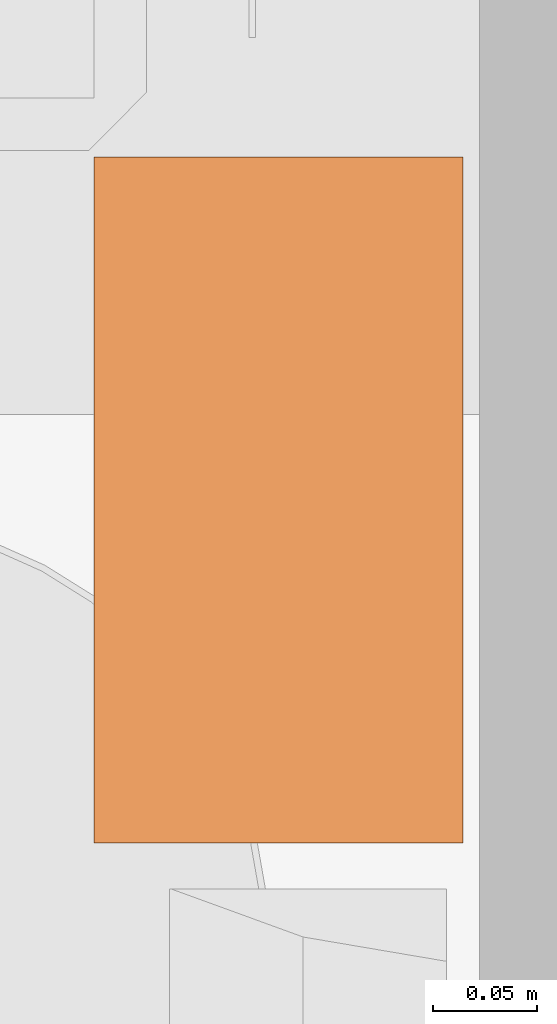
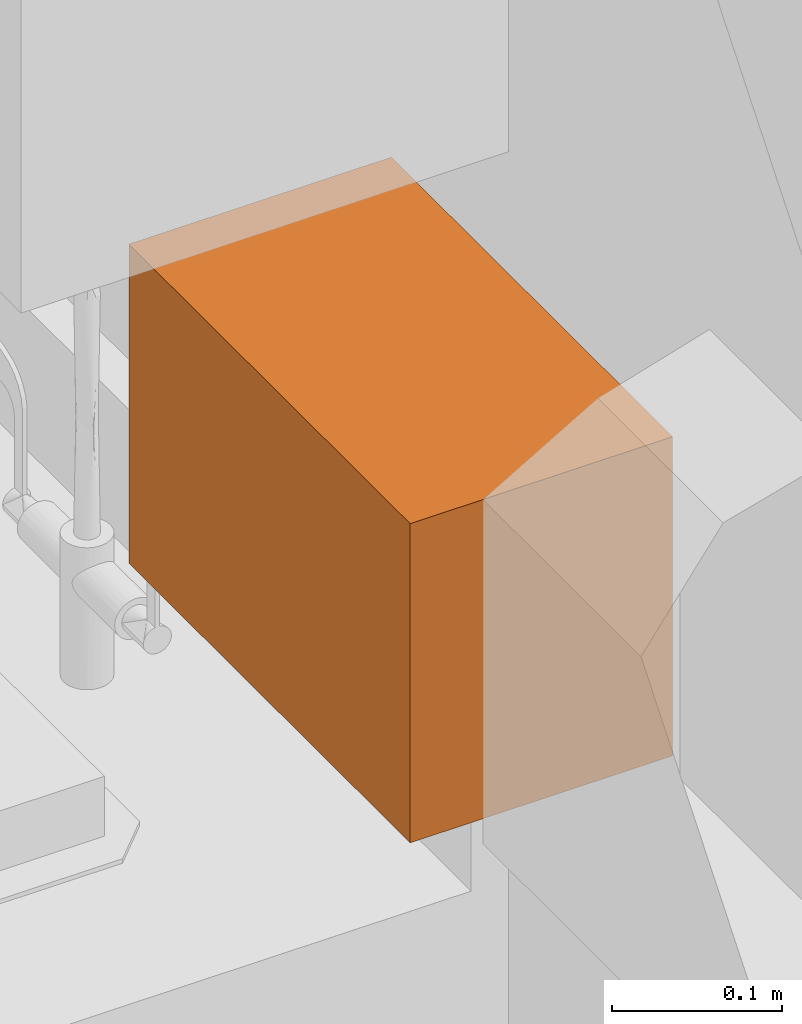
# One storey, part 112 of 142: 1 proxy.
"""IFC2X3 building model written with IfcOpenShell, lengths in feet."""

import ifcopenshell
import ifcopenshell.guid

model = None  # the IFC model being written
_history = None  # IfcOwnerHistory: only IFC2X3 demands one
_inside = {}  # id of a spatial element -> (the spatial element, [elements in it])
_under = {}  # id of a project, library or spatial element -> (it, [spatial elements below it])
_declared = {}  # id of a project -> (the project, [libraries it declares])
_typed = {}  # id of a type object -> (the type object, [elements of that type])
_made_of = {}  # id of a material, layer set ... -> (it, [elements and type objects made of it])


def new_model(schema):
    """Start an empty IFC model of exactly this schema.

    Asked for "IFC4X3", IfcOpenShell would pick the latest addendum, in which some entities
    have other attributes; the version numbers below select the first issue.
    IFC2X3 requires an IfcOwnerHistory on every rooted entity: one is made here for all.
    """
    global model, _history
    if schema == "IFC4X3":
        model = ifcopenshell.file(schema_version=(4, 3, 0, 0))
    else:
        model = ifcopenshell.file(schema=schema)
    _inside.clear()
    _under.clear()
    _declared.clear()
    _typed.clear()
    _made_of.clear()
    _history = None
    if model.schema == "IFC2X3":
        org = make("IfcOrganization", Name="unknown")
        user = make(
            "IfcPersonAndOrganization",
            ThePerson=make("IfcPerson", FamilyName="unknown"),
            TheOrganization=org,
        )
        app = make(
            "IfcApplication",
            ApplicationDeveloper=org,
            Version="unknown",
            ApplicationFullName="unknown",
            ApplicationIdentifier="unknown",
        )
        _history = make(
            "IfcOwnerHistory",
            OwningUser=user,
            OwningApplication=app,
            ChangeAction="ADDED",
            CreationDate=0,
        )
    return model


def make(cls, **values):
    """One entity of the class cls with the attributes given. An attribute that is None is left unset."""
    return model.create_entity(
        cls, **{name: value for name, value in values.items() if value is not None}
    )


def entity(cls, *values):
    """Any entity or typed value of the class cls, its attributes in the order of the schema. None: left unset."""
    e = model.create_entity(cls)
    for i, value in enumerate(values):
        if value is not None:
            e[i] = value
    return e


def rooted(cls, **values):
    """An entity with a GlobalId (a new one), such as an element, a storey or a relation."""
    return make(cls, GlobalId=ifcopenshell.guid.new(), OwnerHistory=_history, **values)


def si_unit(unit_type, name, prefix=None):
    """IfcSIUnit, for example si_unit("LENGTHUNIT", "METRE", prefix="MILLI")."""
    return make("IfcSIUnit", UnitType=unit_type, Prefix=prefix, Name=name)


def converted_unit(unit_type, name, factor, base, dimensions=None, offset=None):
    """IfcConversionBasedUnit, such as the inch: factor (a typed value) times the base unit."""
    return make(
        "IfcConversionBasedUnit"
        if offset is None
        else "IfcConversionBasedUnitWithOffset",
        ConversionOffset=offset,
        Dimensions=None
        if dimensions is None
        else entity("IfcDimensionalExponents", *dimensions),
        UnitType=unit_type,
        Name=name,
        ConversionFactor=make(
            "IfcMeasureWithUnit", ValueComponent=factor, UnitComponent=base
        ),
    )


def derived_unit(unit_type, elements):
    """IfcDerivedUnit: a product of units, each with its exponent."""
    return make(
        "IfcDerivedUnit",
        Elements=[
            make("IfcDerivedUnitElement", Unit=unit, Exponent=power)
            for unit, power in elements
        ],
        UnitType=unit_type,
    )


def assignment(units):
    """IfcUnitAssignment: the units of a project."""
    return None if units is None else make("IfcUnitAssignment", Units=units)


def point(xyz):
    """IfcCartesianPoint."""
    return None if xyz is None else make("IfcCartesianPoint", Coordinates=xyz)


def direction(xyz):
    """IfcDirection."""
    return None if xyz is None else make("IfcDirection", DirectionRatios=xyz)


def frame(location, z_axis=None, x_axis=None):
    """IfcAxis2Placement3D, a coordinate frame: its origin and axes. An axis left out is left unset."""
    return make(
        "IfcAxis2Placement3D",
        Location=point(location),
        Axis=direction(z_axis),
        RefDirection=direction(x_axis),
    )


def frame_2d(location, x_axis=None):
    """IfcAxis2Placement2D, a coordinate frame in the plane: its origin and x axis."""
    return make(
        "IfcAxis2Placement2D", Location=point(location), RefDirection=direction(x_axis)
    )


def origin():
    """The frame at (0, 0, 0) with its axes left unset."""
    return frame((0.0, 0.0, 0.0))


def place(relative_to, where):
    """IfcLocalPlacement: puts the frame where relative to a parent placement (None: the world)."""
    return make(
        "IfcLocalPlacement", PlacementRelTo=relative_to, RelativePlacement=where
    )


def context(
    kind, dimensions, precision=None, world=None, true_north=None, identifier=None
):
    """IfcGeometricRepresentationContext, for example the 3D "Model" context."""
    return make(
        "IfcGeometricRepresentationContext",
        ContextIdentifier=identifier,
        ContextType=kind,
        CoordinateSpaceDimension=dimensions,
        Precision=precision,
        WorldCoordinateSystem=world,
        TrueNorth=true_north,
    )


def subcontext(parent, identifier, kind, view, scale=None):
    """IfcGeometricRepresentationSubContext, for example "Body" below "Model"."""
    return make(
        "IfcGeometricRepresentationSubContext",
        ContextIdentifier=identifier,
        ContextType=kind,
        ParentContext=parent,
        TargetScale=scale,
        TargetView=view,
    )


def project(units=None, contexts=None):
    """IfcProject with its units and contexts."""
    return rooted(
        "IfcProject",
        Name="project",
        RepresentationContexts=contexts,
        UnitsInContext=assignment(units),
    )


def spatial(cls, under=None, at=None, **own):
    """A site, building, storey or space (cls), placed at a placement, below another one or the project."""
    s = rooted(cls, ObjectPlacement=at, **own)
    if under is not None:
        _under.setdefault(under.id(), (under, []))[1].append(s)
    return s


def profile(cls, at=None, kind="AREA", **sizes):
    """A parametric profile (cls). Its sizes go by their IFC names, for example OverallWidth=200.0."""
    return make(cls, ProfileType=kind, Position=at, **sizes)


def rectangle(**sizes):
    """IfcRectangleProfileDef."""
    return profile("IfcRectangleProfileDef", **sizes)


def extrude(swept, where, along, depth):
    """IfcExtrudedAreaSolid: the profile swept, set in the frame where, extruded along a direction by depth."""
    return make(
        "IfcExtrudedAreaSolid",
        SweptArea=swept,
        Position=where,
        ExtrudedDirection=direction(along),
        Depth=depth,
    )


def shape(context_of_items, identifier, shape_type, items):
    """IfcShapeRepresentation: the items that make up one representation, for example the "Body"."""
    return make(
        "IfcShapeRepresentation",
        ContextOfItems=context_of_items,
        RepresentationIdentifier=identifier,
        RepresentationType=shape_type,
        Items=items,
    )


def source(mapping_origin, context_of_items, identifier, shape_type, items):
    """IfcRepresentationMap: a shape defined once, which mapped items show again and again."""
    return make(
        "IfcRepresentationMap",
        MappingOrigin=mapping_origin,
        MappedRepresentation=shape(context_of_items, identifier, shape_type, items),
    )


def transform(
    local_origin,
    x_axis=None,
    y_axis=None,
    z_axis=None,
    scale=None,
    scale2=None,
    scale3=None,
    uniform=True,
):
    """IfcCartesianTransformationOperator3D, or its non-uniform kind. x_axis, y_axis, z_axis: its Axis1, 2, 3."""
    if uniform:
        return make(
            "IfcCartesianTransformationOperator3D",
            Axis1=direction(x_axis),
            Axis2=direction(y_axis),
            LocalOrigin=point(local_origin),
            Scale=scale,
            Axis3=direction(z_axis),
        )
    return make(
        "IfcCartesianTransformationOperator3DnonUniform",
        Axis1=direction(x_axis),
        Axis2=direction(y_axis),
        LocalOrigin=point(local_origin),
        Scale=scale,
        Axis3=direction(z_axis),
        Scale2=scale2,
        Scale3=scale3,
    )


def mapped(mapping_source, mapping_target):
    """IfcMappedItem: shows the shape of a source again, moved by a transform."""
    return make(
        "IfcMappedItem", MappingSource=mapping_source, MappingTarget=mapping_target
    )


def made_of(thing, what):
    """Note that an element or type object is made of a material, layer set ...; save() writes the relation."""
    if what is not None:
        _made_of.setdefault(what.id(), (what, []))[1].append(thing)
    return thing


def type_object(cls, material=None, **own):
    """A type object (cls), such as IfcWallType, which elements share."""
    return made_of(rooted(cls, **own), material)


def type_shapes(of_type, sources):
    """Give a type object the sources (RepresentationMaps) that its elements show as mapped items."""
    of_type.RepresentationMaps = sources


def element(
    cls,
    number,
    at=None,
    inside=None,
    cuts=None,
    type_object=None,
    material=None,
    context=None,
    identifier="Body",
    shape_type=None,
    held_by="IfcProductDefinitionShape",
    body=None,
    shapes=None,
    **own,
):
    """One element of the class cls, such as IfcWall. Its Tag is "e" and its number.

    at: its placement. inside: the storey or other place that contains it. cuts: it is an
    opening in that element (IfcRelVoidsElement). A single representation is given by context,
    identifier, shape_type and body (its items); several are given by shapes. held_by: the class
    of the entity that holds the representations. save() writes the other relations.
    """
    e = rooted(cls, Tag="e%d" % number, ObjectPlacement=at, **own)
    if body is not None:
        shapes = [shape(context, identifier, shape_type, body)]
    if shapes is not None:
        e.Representation = make(held_by, Representations=shapes)
    if inside is not None:
        _inside.setdefault(inside.id(), (inside, []))[1].append(e)
    if cuts is not None:
        rooted(
            "IfcRelVoidsElement", RelatingBuildingElement=cuts, RelatedOpeningElement=e
        )
    if type_object is not None:
        _typed.setdefault(type_object.id(), (type_object, []))[1].append(e)
    return made_of(e, material)


def aggregate(whole, parts):
    """IfcRelAggregates: a whole, such as a stair, and the parts it consists of."""
    return rooted("IfcRelAggregates", RelatingObject=whole, RelatedObjects=parts)


def save(model, path):
    """Write the relations noted so far, then the file.

    IfcRelAggregates (storeys below a building ...), IfcRelContainedInSpatialStructure (elements
    in a storey), IfcRelDefinesByType, IfcRelAssociatesMaterial and IfcRelDeclares: one each for
    every whole, place, type object, material and project.
    """
    for whole, parts in _under.values():
        aggregate(whole, parts)
    for where, things in _inside.values():
        rooted(
            "IfcRelContainedInSpatialStructure",
            RelatedElements=things,
            RelatingStructure=where,
        )
    for kind, things in _typed.values():
        rooted("IfcRelDefinesByType", RelatedObjects=things, RelatingType=kind)
    for what, things in _made_of.values():
        rooted("IfcRelAssociatesMaterial", RelatedObjects=things, RelatingMaterial=what)
    for by, libraries in _declared.values():
        rooted("IfcRelDeclares", RelatingContext=by, RelatedDefinitions=libraries)
    model.write(path)


model = new_model("IFC2X3")

# Units and contexts
model_context = context("Model", 3, precision=0.0001, world=origin(), true_north=direction((6.12303176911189e-17, 1.0)))
body_context = subcontext(model_context, "Body", "Model", "MODEL_VIEW")
ifc_project = project(units=[converted_unit("LENGTHUNIT", "FOOT", entity("IfcRatioMeasure", 0.3048), si_unit("LENGTHUNIT", "METRE"), dimensions=[1, 0, 0, 0, 0, 0, 0]), converted_unit("AREAUNIT", "SQUARE FOOT", entity("IfcRatioMeasure", 0.09290304), si_unit("AREAUNIT", "SQUARE_METRE"), dimensions=[2, 0, 0, 0, 0, 0, 0]), converted_unit("VOLUMEUNIT", "CUBIC FOOT", entity("IfcRatioMeasure", 0.028316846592), si_unit("VOLUMEUNIT", "CUBIC_METRE"), dimensions=[3, 0, 0, 0, 0, 0, 0]), converted_unit("PLANEANGLEUNIT", "DEGREE", entity("IfcRatioMeasure", 0.0174532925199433), si_unit("PLANEANGLEUNIT", "RADIAN"), dimensions=[0, 0, 0, 0, 0, 0, 0]), si_unit("MASSUNIT", "GRAM", prefix="KILO"), derived_unit("MASSDENSITYUNIT", [(si_unit("MASSUNIT", "GRAM", prefix="KILO"), 1), (si_unit("LENGTHUNIT", "METRE"), -3)]), si_unit("TIMEUNIT", "SECOND"), si_unit("FREQUENCYUNIT", "HERTZ"), si_unit("THERMODYNAMICTEMPERATUREUNIT", "DEGREE_CELSIUS"), derived_unit("THERMALTRANSMITTANCEUNIT", [(si_unit("MASSUNIT", "GRAM", prefix="KILO"), 1), (si_unit("THERMODYNAMICTEMPERATUREUNIT", "KELVIN"), -1), (si_unit("TIMEUNIT", "SECOND"), -3)]), derived_unit("VOLUMETRICFLOWRATEUNIT", [(si_unit("LENGTHUNIT", "METRE"), 3), (si_unit("TIMEUNIT", "SECOND"), -1)]), si_unit("ELECTRICCURRENTUNIT", "AMPERE"), si_unit("ELECTRICVOLTAGEUNIT", "VOLT"), si_unit("POWERUNIT", "WATT"), si_unit("FORCEUNIT", "NEWTON"), si_unit("ILLUMINANCEUNIT", "LUX"), si_unit("LUMINOUSFLUXUNIT", "LUMEN"), si_unit("LUMINOUSINTENSITYUNIT", "CANDELA"), derived_unit("USERDEFINED", [(si_unit("MASSUNIT", "GRAM", prefix="KILO"), -1), (si_unit("LENGTHUNIT", "METRE"), -2), (si_unit("TIMEUNIT", "SECOND"), 3), (si_unit("LUMINOUSFLUXUNIT", "LUMEN"), 1)]), derived_unit("LINEARVELOCITYUNIT", [(si_unit("LENGTHUNIT", "METRE"), 1), (si_unit("TIMEUNIT", "SECOND"), -1)]), si_unit("PRESSUREUNIT", "PASCAL"), derived_unit("USERDEFINED", [(si_unit("LENGTHUNIT", "METRE"), -2), (si_unit("MASSUNIT", "GRAM", prefix="KILO"), 1), (si_unit("TIMEUNIT", "SECOND"), -2)])], contexts=[model_context])

# Site, building, storey, space
site_placement = place(None, origin())
site = spatial("IfcSite", under=ifc_project, at=site_placement, Name="Default", CompositionType="ELEMENT")
building_placement = place(site_placement, origin())
building = spatial("IfcBuilding", under=site, at=building_placement, Name="OUTPATIENT / PACT CLINIC (Ch. 265)", CompositionType="ELEMENT")
storey_placement = place(building_placement, origin())
storey = spatial("IfcBuildingStorey", under=building, at=storey_placement, Name="LEVEL 1", CompositionType="ELEMENT", Elevation=0.0)
space_placement = place(storey_placement, origin())
space = spatial("IfcSpace", under=storey, at=space_placement, Name="EXW01", CompositionType="ELEMENT", InteriorOrExteriorSpace="INTERNAL")

# Proxy
building_element_proxy_type = type_object("IfcBuildingElementProxyType", Name="A5080 - Dispenser, Paper Towel", PredefinedType="NOTDEFINED")
shared_shape = source(origin(), body_context, "Body", "SweptSolid", [
    extrude(rectangle(XDim=0.58333333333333, YDim=1.08333333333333, at=frame_2d((9.99200722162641e-16, 0.0), x_axis=(1.0, 0.0))), frame((0.0, -0.291666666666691, 0.0), z_axis=(0.0, 0.0, 1.0), x_axis=(0.0, 1.0, 0.0)), (0.0, 0.0, 1.0), 0.75),
])
type_shapes(building_element_proxy_type, [shared_shape])
proxy_placement = place(space_placement, frame((447.728936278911, -945.785072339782, 3.49999999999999), z_axis=(0.0, 0.0, 1.0), x_axis=(0.0, -1.0, 0.0)))
element("IfcBuildingElementProxy", 1, at=proxy_placement, inside=space, type_object=building_element_proxy_type, Name="A5080 - Dispenser, Paper Towel:A5080 - Dispenser, Paper Towel", ObjectType="A5080 - Dispenser, Paper Towel", context=body_context, shape_type="MappedRepresentation", body=[
    mapped(shared_shape, transform((0.0, 0.0, 0.0), scale=1.0)),
])

save(model, "model.ifc")
